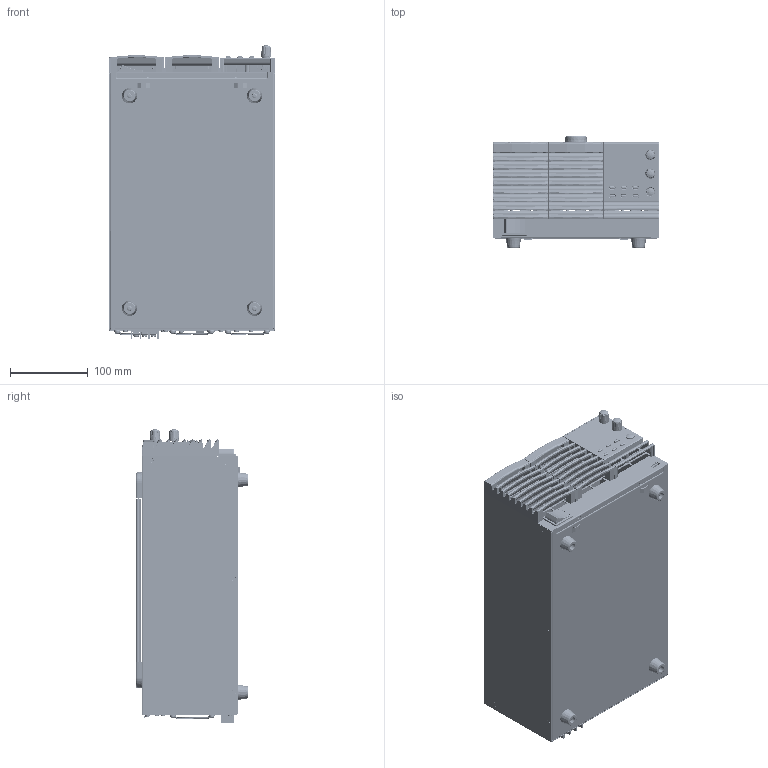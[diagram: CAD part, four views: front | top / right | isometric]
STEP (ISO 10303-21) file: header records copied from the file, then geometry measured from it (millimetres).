
FILE_DESCRIPTION((''),'2;1');
FILE_NAME('PSW-HIGH-VOLTAGE-M3_ASM_ASM_ASM','2019-06-14T13:37:06',('jeffery_kuo'),(''),'CREO PARAMETRIC BY PTC INC, 2018100','CREO PARAMETRIC BY PTC INC, 2018100','');
FILE_SCHEMA(('CONFIG_CONTROL_DESIGN'));
Products named in the file (72): 63FP-AG107501_391; INSERT-CU_10; 63FP-AG107501_ASM_46_ASM; ENCODE_SW_L25-ALPS_8; PSW-F-PCB_ASM_ASM_102_ASM; 63KE-XG2001A1_268; 5005-130G0101_32; 51SW-30080101_96; PSW-F1_ASM_ASM_478_ASM; 63FP-AG1076A1_85; PSW-F2_ASM_ASM_56_ASM; 62SW-080FP1A1_249; 62SW-080FP1A1_ASM_15_ASM; POWER_SW_AJ8R1013_28; PSW-FP3_ASM_ASM_27_ASM; 62SW-080LO1A1_277; BSO-M3X55_10; FH-M4-15_3; 62SW-080LO1A1_ASM_80_ASM; PSW-MAINPCB3_196; USB2_7; T36-E031-3PIN_16; RJ-45_16; 62SW-080ST101-JH-4A_8; PSW-MAINPCB3_ASM_ASM_88_ASM; 57FC-10B0100_GL-4L-B_3; BMS-W-3X10_11; BOX-TYPE-PLUGS-26PIN_1; DOUBLE-ROW-SOCKETS_1_2; DOUBLE-ROW-SOCKETS_1_ASM; DOUBLE-ROW-SOCKETS_ASM_ASM_1_ASM; USB_7; 62SW-080HP501_20; PSW-HIGH-VOLTAGE-AG-PCB-M_ASM_A_ASM; PSW-HIGH-VOLTAGE-AG-PCB-S1_ASM__ASM; PSW-HIGH-VOLTAGE-AG-PCB-S2_ASM__ASM; PSW-HIGH-VOLTAGE-LO-M3_ASM_ASM__ASM; 62SW-080RP201_40; 62SW-080RP201_ASM_7_ASM; FAN-60X60-25_26_1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
Assembly tree (154 placements, depth 7):
  PSW-HIGH-VOLTAGE-M3_ASM_ASM_ASM
    PSW-HIGH-VOLTAGE-M3_ASM_ASM_171_ASM
      PSW-F1_ASM_ASM_478_ASM
        63FP-AG107501_ASM_46_ASM
          63FP-AG107501_391
          INSERT-CU_10  x2
        PSW-F-PCB_ASM_ASM_102_ASM
          ENCODE_SW_L25-ALPS_8  x2
        63KE-XG2001A1_268
        5005-130G0101_32  x2
        51SW-30080101_96
      PSW-F2_ASM_ASM_56_ASM  x2
        63FP-AG1076A1_85
      PSW-FP3_ASM_ASM_27_ASM
        62SW-080FP1A1_ASM_15_ASM
          62SW-080FP1A1_249
        POWER_SW_AJ8R1013_28
      PSW-HIGH-VOLTAGE-LO-M3_ASM_ASM__ASM
        62SW-080LO1A1_ASM_80_ASM
          62SW-080LO1A1_277
          BSO-M3X55_10  x18
          FH-M4-15_3
        PSW-MAINPCB3_ASM_ASM_88_ASM
          PSW-MAINPCB3_196
          USB2_7
          T36-E031-3PIN_16
          RJ-45_16
          62SW-080ST101-JH-4A_8  x2
        57FC-10B0100_GL-4L-B_3  x4
        BMS-W-3X10_11  x4
        PSW-HIGH-VOLTAGE-AG-PCB-M_ASM_A_ASM
          DOUBLE-ROW-SOCKETS_ASM_ASM_1_ASM
            BOX-TYPE-PLUGS-26PIN_1
            DOUBLE-ROW-SOCKETS_1_ASM
              DOUBLE-ROW-SOCKETS_1_2
          USB_7
          62SW-080HP501_20
        PSW-HIGH-VOLTAGE-AG-PCB-S1_ASM__ASM
          62SW-080HP501_20
        PSW-HIGH-VOLTAGE-AG-PCB-S2_ASM__ASM
          62SW-080HP501_20
      PSW-HIGH-VOLTAGE-RP-1-M3_ASM_AS_ASM
        62SW-080RP201_ASM_7_ASM
          62SW-080RP201_40
        FAN-60X60-25_26_ASM  x3
          FAN-60X60-25_26_1
          FAN-60X60-25_26_2
        FAN-NET-60-60_2_ASM  x3
          FAN-NET-60-60_2_1
          FAN-NET-60-60_2_2
          FAN-NET-60-60_2_3
          FAN-NET-60-60_2_4
          FAN-NET-60-60_2_5
          FAN-NET-60-60_2_6
        BMS-W-3X32_11  x12
      FMS-M3-6-110_6  x10
      PMS-W-3X8_9  x9
      PSW-HV-FILTER-PCB-M3_ASM_ASM_26_ASM
        ME030-381-9P_7
      IMS-3X6_9  x6
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Bounding box: 212.8 x 144.2 x 376.8 mm (x, y, z)
Volume: 659049 mm3; surface area: 951559.2 mm2
Topology: 143 solids, 143 shells, 9132 faces, 23945 edges, 15258 vertices
Faces by surface type: plane 5293, cylinder 2238, cone 742, bspline 443, torus 258, sphere 158
Entity records: 203954 total; most frequent: CARTESIAN_POINT 53633, ORIENTED_EDGE 31180, DIRECTION 30731, EDGE_CURVE 15590, VECTOR 10543, LINE 10543, AXIS2_PLACEMENT_3D 10094, VERTEX_POINT 9893
